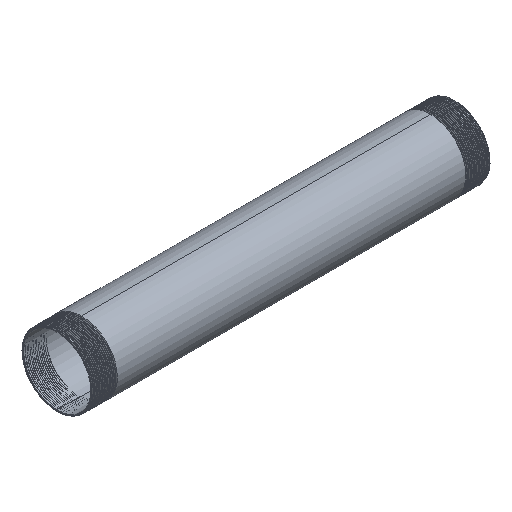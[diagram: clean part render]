
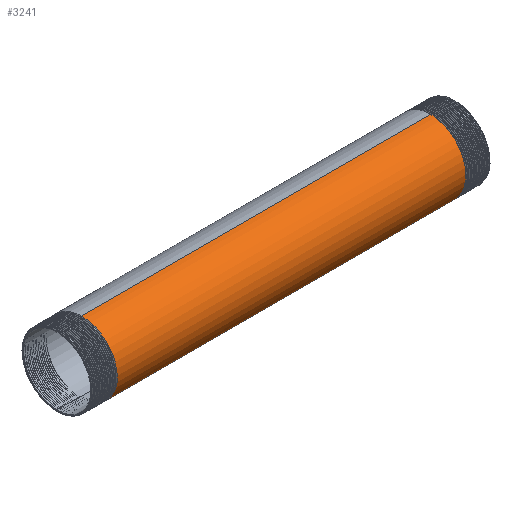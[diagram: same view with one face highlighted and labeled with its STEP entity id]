
A CAD part, isometric view. The second image highlights one B-rep face of the part: STEP entity #3241.
In plain terms, the highlighted cylindrical face has radius 44.45 mm (diameter 88.9 mm), a partial arc.
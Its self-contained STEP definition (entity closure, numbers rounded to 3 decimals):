
#825 = CARTESIAN_POINT ( 'NONE',  ( 218.95, -37.811, 27.472 ) ) ;
#833 = CARTESIAN_POINT ( 'NONE',  ( -218.25, 0., -44.45 ) ) ;
#1487 = VECTOR ( 'NONE', #5765, 1000. ) ;
#1587 = CARTESIAN_POINT ( 'NONE',  ( -149.494, 0., -44.45 ) ) ;
#1882 = VERTEX_POINT ( 'NONE', #7776 ) ;
#2160 = CARTESIAN_POINT ( 'NONE',  ( 218.25, 0., -44.45 ) ) ;
#2168 = CARTESIAN_POINT ( 'NONE',  ( -219.25, 0., 44.45 ) ) ;
#2245 = CARTESIAN_POINT ( 'NONE',  ( 219.15, -14.443, 44.45 ) ) ;
#2468 = CARTESIAN_POINT ( 'NONE',  ( 219.25, 0., 44.45 ) ) ;
#2562 = CYLINDRICAL_SURFACE ( 'NONE', #14534, 44.45 ) ;
#2917 = CARTESIAN_POINT ( 'NONE',  ( -149.494, 0., 44.45 ) ) ;
#3241 = ADVANCED_FACE ( 'NONE', ( #4918 ), #2562, .T. ) ;
#4020 = DIRECTION ( 'NONE',  ( -1., 0., 0. ) ) ;
#4556 = CARTESIAN_POINT ( 'NONE',  ( -219.25, 0., 44.45 ) ) ;
#4600 = CARTESIAN_POINT ( 'NONE',  ( 219.05, -26.127, 35.961 ) ) ;
#4782 = EDGE_CURVE ( 'NONE', #11363, #13050, #7787, .T. ) ;
#4918 = FACE_OUTER_BOUND ( 'NONE', #12976, .T. ) ;
#5765 = DIRECTION ( 'NONE',  ( -1., 0., 0. ) ) ;
#5782 = CARTESIAN_POINT ( 'NONE',  ( -218.35, -14.443, -44.45 ) ) ;
#6100 = CARTESIAN_POINT ( 'NONE',  ( 218.45, -26.127, -35.961 ) ) ;
#6953 = EDGE_CURVE ( 'NONE', #1882, #11363, #11731, .T. ) ;
#7051 = CARTESIAN_POINT ( 'NONE',  ( -218.55, -37.811, -27.472 ) ) ;
#7203 = CARTESIAN_POINT ( 'NONE',  ( 218.55, -37.811, -27.472 ) ) ;
#7293 = CARTESIAN_POINT ( 'NONE',  ( -218.45, -26.127, -35.961 ) ) ;
#7368 = CARTESIAN_POINT ( 'NONE',  ( 218.85, -42.274, 13.736 ) ) ;
#7776 = CARTESIAN_POINT ( 'NONE',  ( 218.25, 0., -44.45 ) ) ;
#7787 =( BOUNDED_CURVE ( )  B_SPLINE_CURVE ( 2, ( #833, #5782, #7293, #7051, #10899, #8642, #9650, #13411, #8559, #15934, #2168 ),
 .UNSPECIFIED., .F., .T. ) 
 B_SPLINE_CURVE_WITH_KNOTS ( ( 3, 2, 2, 2, 2, 3 ),
 ( 0., 0.006, 0.011, 0.017, 0.022, 0.028 ),
 .UNSPECIFIED. ) 
 CURVE ( )  GEOMETRIC_REPRESENTATION_ITEM ( )  RATIONAL_B_SPLINE_CURVE ( ( 1., 0.951, 1., 0.951, 1., 0.951, 1., 0.951, 1., 0.951, 1. ) ) 
 REPRESENTATION_ITEM ( '' )  );
#8043 = LINE ( 'NONE', #2917, #1487 ) ;
#8357 = ORIENTED_EDGE ( 'NONE', *, *, #6953, .F. ) ;
#8378 = CARTESIAN_POINT ( 'NONE',  ( -218.25, 0., -44.45 ) ) ;
#8519 = VERTEX_POINT ( 'NONE', #2468 ) ;
#8551 = CARTESIAN_POINT ( 'NONE',  ( 218.65, -42.274, -13.736 ) ) ;
#8559 = CARTESIAN_POINT ( 'NONE',  ( -219.05, -26.127, 35.961 ) ) ;
#8642 = CARTESIAN_POINT ( 'NONE',  ( -218.75, -46.737, 0. ) ) ;
#9650 = CARTESIAN_POINT ( 'NONE',  ( -218.85, -42.274, 13.736 ) ) ;
#9803 = CARTESIAN_POINT ( 'NONE',  ( 219.25, 0., 44.45 ) ) ;
#10528 = EDGE_CURVE ( 'NONE', #1882, #8519, #14643, .T. ) ;
#10899 = CARTESIAN_POINT ( 'NONE',  ( -218.65, -42.274, -13.736 ) ) ;
#11294 = DIRECTION ( 'NONE',  ( -1., 0., 0. ) ) ;
#11363 = VERTEX_POINT ( 'NONE', #8378 ) ;
#11692 = ORIENTED_EDGE ( 'NONE', *, *, #12411, .T. ) ;
#11731 = LINE ( 'NONE', #1587, #13703 ) ;
#11762 = ORIENTED_EDGE ( 'NONE', *, *, #4782, .F. ) ;
#12411 = EDGE_CURVE ( 'NONE', #8519, #13050, #8043, .T. ) ;
#12637 = CARTESIAN_POINT ( 'NONE',  ( -149.494, 0., 0. ) ) ;
#12976 = EDGE_LOOP ( 'NONE', ( #8357, #16169, #11692, #11762 ) ) ;
#13050 = VERTEX_POINT ( 'NONE', #4556 ) ;
#13411 = CARTESIAN_POINT ( 'NONE',  ( -218.95, -37.811, 27.472 ) ) ;
#13703 = VECTOR ( 'NONE', #4020, 1000. ) ;
#14052 = DIRECTION ( 'NONE',  ( 0., 0., 1. ) ) ;
#14534 = AXIS2_PLACEMENT_3D ( 'NONE', #12637, #11294, #14052 ) ;
#14643 =( BOUNDED_CURVE ( )  B_SPLINE_CURVE ( 2, ( #2160, #16080, #6100, #7203, #8551, #14985, #7368, #825, #4600, #2245, #9803 ),
 .UNSPECIFIED., .F., .T. ) 
 B_SPLINE_CURVE_WITH_KNOTS ( ( 3, 2, 2, 2, 2, 3 ),
 ( 0., 0.006, 0.011, 0.017, 0.022, 0.028 ),
 .UNSPECIFIED. ) 
 CURVE ( )  GEOMETRIC_REPRESENTATION_ITEM ( )  RATIONAL_B_SPLINE_CURVE ( ( 1., 0.951, 1., 0.951, 1., 0.951, 1., 0.951, 1., 0.951, 1. ) ) 
 REPRESENTATION_ITEM ( '' )  );
#14985 = CARTESIAN_POINT ( 'NONE',  ( 218.75, -46.737, 0. ) ) ;
#15934 = CARTESIAN_POINT ( 'NONE',  ( -219.15, -14.443, 44.45 ) ) ;
#16080 = CARTESIAN_POINT ( 'NONE',  ( 218.35, -14.443, -44.45 ) ) ;
#16169 = ORIENTED_EDGE ( 'NONE', *, *, #10528, .T. ) ;
